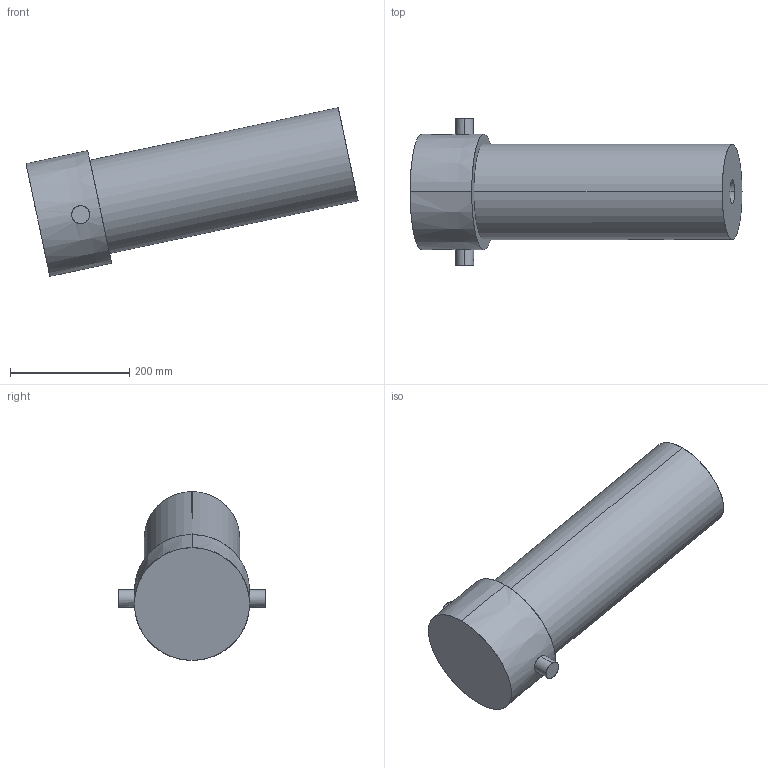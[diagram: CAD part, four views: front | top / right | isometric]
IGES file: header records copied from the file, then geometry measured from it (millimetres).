
Start section: SolidWorks IGES file using analytic representation for surfaces
Global section: file name: C:\Users\sefaane2\Downloads\Sparad modell IRB4400 10\Final SolidWorks CADSIM models and .txt file\Macro\Macro_IRC5_IGES_j\IRB4400_L10-253_IRC5_rev03_BAL-A_CAD.IGS; native system: SolidWorks 2014; preprocessor: SolidWorks 2014; author: SEFAANE2; date: 161103.132503; units: millimetre
Bounding box: 557.58 x 248 x 283.4 mm (x, y, z)
Surface area: 344139.4 mm2 (no closed solid volume)
Topology: 0 solids, 0 shells, 16 faces, 693 edges, 693 vertices
Faces by surface type: revolution 10, bspline 6
